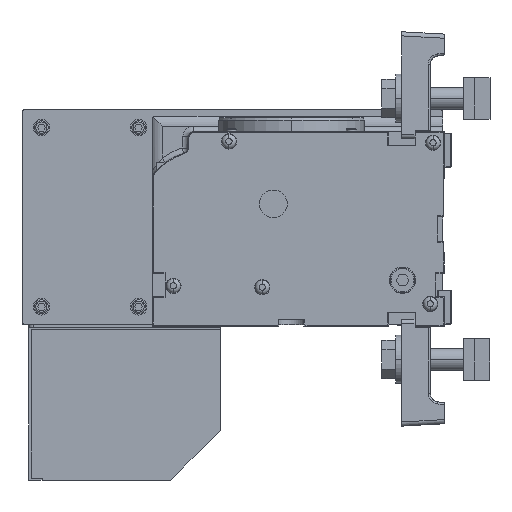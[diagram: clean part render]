
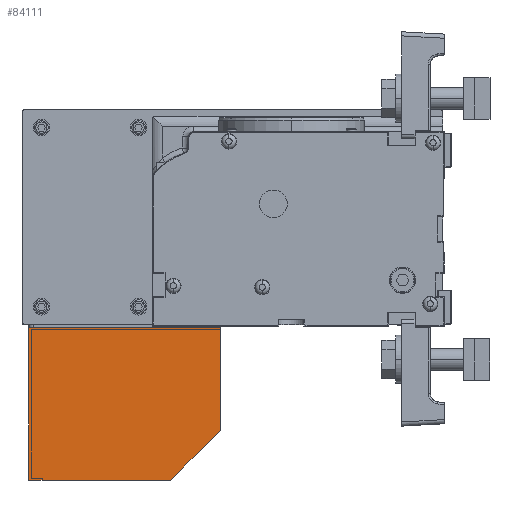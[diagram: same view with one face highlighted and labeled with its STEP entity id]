
A CAD part, left-side view. The second image highlights one B-rep face of the part: STEP entity #84111.
In plain terms, the highlighted planar face has unit normal (-1, 0, 0) as drawn and (1, 0, 0) by its records, which use the part's own axes.
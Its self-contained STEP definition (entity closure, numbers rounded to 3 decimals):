
#1388 = FACE_OUTER_BOUND ( 'NONE', #96474, .T. ) ;
#4009 = EDGE_CURVE ( 'NONE', #17700, #18460, #95349, .T. ) ;
#4493 = CARTESIAN_POINT ( 'NONE',  ( 138., 36., 0. ) ) ;
#5344 = CARTESIAN_POINT ( 'NONE',  ( 138., 138., -110. ) ) ;
#7918 = CARTESIAN_POINT ( 'NONE',  ( 138., 0., -36. ) ) ;
#9974 = CARTESIAN_POINT ( 'NONE',  ( 138., 138., -110. ) ) ;
#11399 = DIRECTION ( 'NONE',  ( 0., 1., 0. ) ) ;
#12283 = LINE ( 'NONE', #5344, #74142 ) ;
#17700 = VERTEX_POINT ( 'NONE', #4493 ) ;
#18069 = DIRECTION ( 'NONE',  ( 0., 1., 0. ) ) ;
#18460 = VERTEX_POINT ( 'NONE', #7918 ) ;
#18981 = EDGE_CURVE ( 'NONE', #100263, #99428, #12283, .T. ) ;
#25458 = AXIS2_PLACEMENT_3D ( 'NONE', #26747, #27066, #83544 ) ;
#26747 = CARTESIAN_POINT ( 'NONE',  ( 138., 138., -110. ) ) ;
#27066 = DIRECTION ( 'NONE',  ( 1., 0., 0. ) ) ;
#31219 = CARTESIAN_POINT ( 'NONE',  ( 138., 138., 0. ) ) ;
#38600 = ORIENTED_EDGE ( 'NONE', *, *, #4009, .T. ) ;
#43675 = LINE ( 'NONE', #51959, #62548 ) ;
#47053 = CARTESIAN_POINT ( 'NONE',  ( 138., 0., -110. ) ) ;
#51758 = VECTOR ( 'NONE', #86231, 1000. ) ;
#51959 = CARTESIAN_POINT ( 'NONE',  ( 138., 138., 0. ) ) ;
#52373 = VECTOR ( 'NONE', #60876, 1000. ) ;
#60876 = DIRECTION ( 'NONE',  ( 0., -0.707, -0.707 ) ) ;
#62548 = VECTOR ( 'NONE', #11399, 1000. ) ;
#62831 = VERTEX_POINT ( 'NONE', #47053 ) ;
#64036 = LINE ( 'NONE', #9974, #104478 ) ;
#68030 = EDGE_CURVE ( 'NONE', #62831, #18460, #73200, .T. ) ;
#69824 = EDGE_CURVE ( 'NONE', #17700, #99428, #43675, .T. ) ;
#69941 = CARTESIAN_POINT ( 'NONE',  ( 138., 0., -110. ) ) ;
#69988 = ORIENTED_EDGE ( 'NONE', *, *, #18981, .T. ) ;
#71264 = ORIENTED_EDGE ( 'NONE', *, *, #68030, .F. ) ;
#73200 = LINE ( 'NONE', #69941, #51758 ) ;
#74142 = VECTOR ( 'NONE', #78721, 1000. ) ;
#78721 = DIRECTION ( 'NONE',  ( 0., 0., 1. ) ) ;
#83166 = PLANE ( 'NONE',  #25458 ) ;
#83544 = DIRECTION ( 'NONE',  ( 0., 1., 0. ) ) ;
#84111 = ADVANCED_FACE ( 'NONE', ( #1388 ), #83166, .T. ) ;
#85071 = CARTESIAN_POINT ( 'NONE',  ( 138., 138., -110. ) ) ;
#86231 = DIRECTION ( 'NONE',  ( 0., 0., 1. ) ) ;
#92778 = ORIENTED_EDGE ( 'NONE', *, *, #69824, .F. ) ;
#93420 = CARTESIAN_POINT ( 'NONE',  ( 138., 36., 0. ) ) ;
#95349 = LINE ( 'NONE', #93420, #52373 ) ;
#96474 = EDGE_LOOP ( 'NONE', ( #69988, #92778, #38600, #71264, #100742 ) ) ;
#98173 = EDGE_CURVE ( 'NONE', #62831, #100263, #64036, .T. ) ;
#99428 = VERTEX_POINT ( 'NONE', #31219 ) ;
#100263 = VERTEX_POINT ( 'NONE', #85071 ) ;
#100742 = ORIENTED_EDGE ( 'NONE', *, *, #98173, .T. ) ;
#104478 = VECTOR ( 'NONE', #18069, 1000. ) ;
